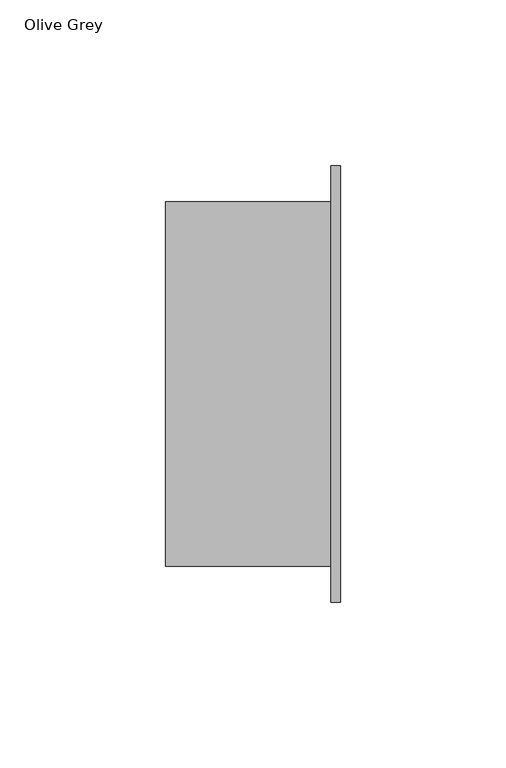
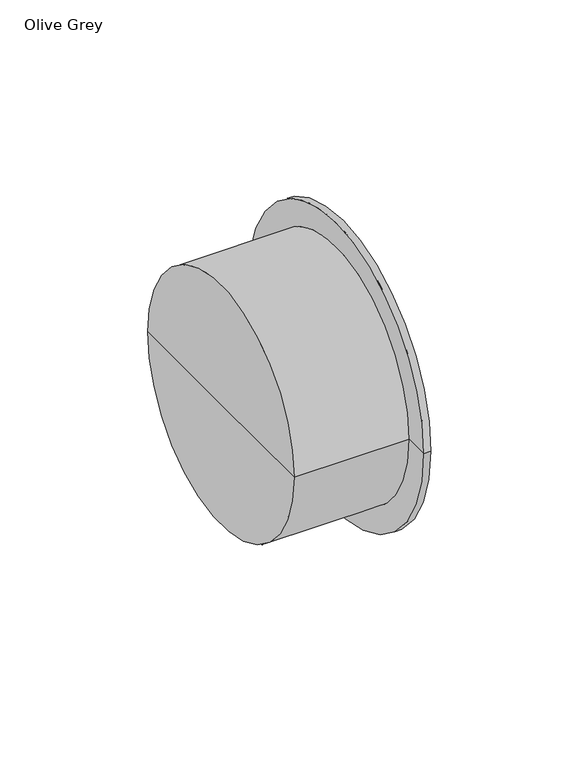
"""IFC4 building model written with IfcOpenShell, lengths in millimetres: pipe fitting geometry, Wavin_PipeFitting_OsmaCompactSoilPvcBossSocketPlug : Olive Grey."""

from ifc_helpers import new_model, si_unit, frame, origin, place, context, project, spatial, polyline, circle_curve, source, transform, mapped, element, save
from ifc_brep_helpers import plane_surface, cylinder_surface, revolved_surface, advanced_brep


def olive_grey_8ea80df9(model_context):
    return source(origin(), model_context, "Body", "AdvancedBrep", [
        advanced_brep(
        [(-53.0, 0.0, 0.0), (-53.0, 55.0, 0.0), (-53.0, -55.0, 0.0), (0.0, -66.0, 0.0), (0.0, 66.0, 0.0), (0.0, 28.2, 0.0), (0.0, -28.2, 0.0), (-3.0, -66.0, 0.0), (-3.0, 66.0, 0.0), (-3.0, -55.0, 0.0), (-3.0, 55.0, 0.0), (-19.0, -28.2, 0.0), (-19.0, 28.2, 0.0), (-19.0, 0.0, 0.0)],
        [
            (0, 1),
            (1, 2, circle_curve(frame((-53.0, 0.0, 0.0), z_axis=(-1.0, 0.0, 0.0), x_axis=(0.0, 1.0, 0.0)), 55.0)),
            (2, 0),
            (2, 1, circle_curve(frame((-53.0, 0.0, 0.0), z_axis=(-1.0, 0.0, 0.0), x_axis=(0.0, 1.0, 0.0)), 55.0)),
            (3, 4, circle_curve(frame((0.0, 0.0, 0.0), z_axis=(1.0, 0.0, 0.0), x_axis=(0.0, 1.0, 0.0)), 66.0)),
            (4, 5),
            (5, 6, circle_curve(frame((0.0, 0.0, 0.0), z_axis=(-1.0, 0.0, 0.0), x_axis=(0.0, 1.0, 0.0)), 28.2)),
            (6, 3),
            (4, 3, circle_curve(frame((0.0, 0.0, 0.0), z_axis=(1.0, 0.0, 0.0), x_axis=(0.0, 1.0, 0.0)), 66.0)),
            (6, 5, circle_curve(frame((0.0, 0.0, 0.0), z_axis=(-1.0, 0.0, 0.0), x_axis=(0.0, 1.0, 0.0)), 28.2)),
            (7, 8, circle_curve(frame((-3.0, 0.0, 0.0), z_axis=(1.0, 0.0, 0.0), x_axis=(0.0, 1.0, 0.0)), 66.0)),
            (8, 4),
            (3, 7),
            (8, 7, circle_curve(frame((-3.0, 0.0, 0.0), z_axis=(1.0, 0.0, 0.0), x_axis=(0.0, 1.0, 0.0)), 66.0)),
            (9, 10, circle_curve(frame((-3.0, 0.0, 0.0), z_axis=(1.0, 0.0, 0.0), x_axis=(0.0, 1.0, 0.0)), 55.0)),
            (10, 8),
            (7, 9),
            (10, 9, circle_curve(frame((-3.0, 0.0, 0.0), z_axis=(1.0, 0.0, 0.0), x_axis=(0.0, 1.0, 0.0)), 55.0)),
            (1, 10),
            (9, 2),
            (11, 12, circle_curve(frame((-19.0, 0.0, 0.0), z_axis=(1.0, 0.0, 0.0), x_axis=(0.0, 1.0, 0.0)), 28.2)),
            (12, 13),
            (13, 11),
            (12, 11, circle_curve(frame((-19.0, 0.0, 0.0), z_axis=(1.0, 0.0, 0.0), x_axis=(0.0, 1.0, 0.0)), 28.2)),
            (5, 12),
            (11, 6),
        ],
        [
            plane_surface(frame((-53.0, 0.0, 0.0), z_axis=(-1.0, 0.0, 0.0), x_axis=(0.0, 1.0, 0.0))),
            plane_surface(frame((0.0, 0.0, 0.0), z_axis=(1.0, 0.0, 0.0), x_axis=(0.0, 1.0, 0.0))),
            cylinder_surface(frame((2000.0, 0.0, 0.0), z_axis=(-1.0, 0.0, 0.0), x_axis=(0.0, 1.0, 0.0)), 66.0),
            plane_surface(frame((-3.0, 0.0, 0.0), z_axis=(-1.0, 0.0, 0.0), x_axis=(0.0, 1.0, 0.0))),
            cylinder_surface(frame((2000.0, 0.0, 0.0), z_axis=(-1.0, 0.0, 0.0), x_axis=(0.0, 1.0, 0.0)), 55.0),
            plane_surface(frame((-19.0, 0.0, 0.0), z_axis=(1.0, 0.0, 0.0), x_axis=(0.0, 1.0, 0.0))),
            revolved_surface(polyline([(-19.0, 28.2, 0.0), (0.0, 28.2, 0.0)]), (2000.0, 0.0, 0.0), (-1.0, 0.0, 0.0)),
        ],
        [
            (0, [[1, 2, 3]]),
            (0, [[-3, 4, -1]]),
            (1, [[5, 6, 7, 8]]),
            (1, [[9, -8, 10, -6]]),
            (2, [[11, 12, -5, 13]]),
            (2, [[14, -13, -9, -12]]),
            (3, [[15, 16, -11, 17]]),
            (3, [[18, -17, -14, -16]]),
            (4, [[-2, 19, -15, 20]]),
            (4, [[-4, -20, -18, -19]]),
            (5, [[21, 22, 23]]),
            (5, [[24, -23, -22]]),
            (6, [[-7, 25, -21, 26]]),
            (6, [[-10, -26, -24, -25]]),
        ],
    ),
    ])


if __name__ == "__main__":
    model = new_model("IFC4")
    model_context = context("Model", 3, world=origin())
    ifc_project = project(units=[si_unit("LENGTHUNIT", "METRE", prefix="MILLI")], contexts=[model_context])
    site = spatial("IfcSite", under=ifc_project)
    building = spatial("IfcBuilding", under=site)
    placement = place(None, origin())
    olive_grey_shape = olive_grey_8ea80df9(model_context)
    element("IfcPipeFitting", 1, ObjectType="Wavin_PipeFitting_OsmaCompactSoilPvcBossSocketPlug : Olive Grey", at=placement, inside=building, context=model_context, shape_type="MappedRepresentation", body=[
        mapped(olive_grey_shape, transform((0.0, 0.0, 0.0), x_axis=(1.0, 0.0, 0.0), y_axis=(0.0, 1.0, 0.0), z_axis=(0.0, 0.0, 1.0))),
    ])
    save(model, "model.ifc")
